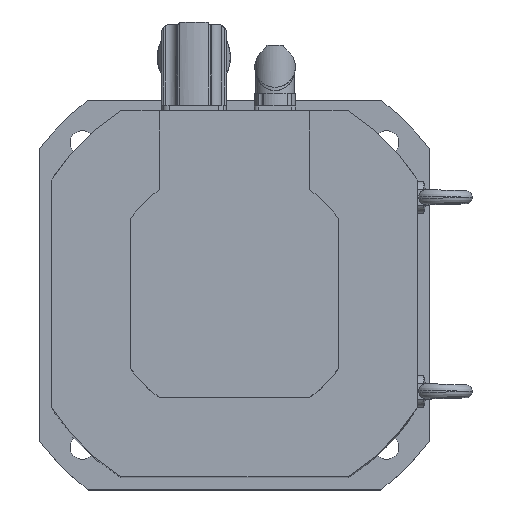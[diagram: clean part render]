
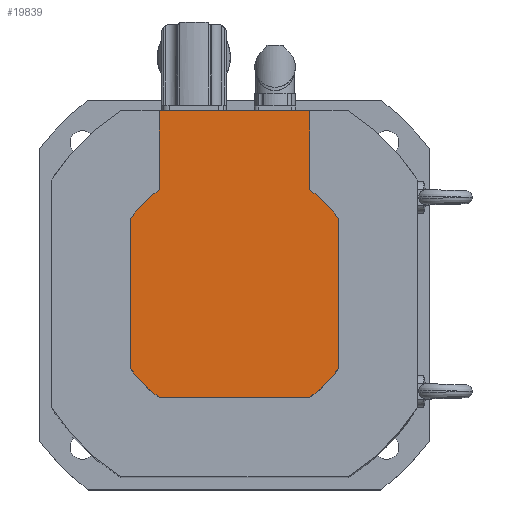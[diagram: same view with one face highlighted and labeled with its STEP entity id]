
A CAD part, top view. The second image highlights one B-rep face of the part: STEP entity #19839.
In plain terms, the highlighted planar face has unit normal (0, 0, 1).
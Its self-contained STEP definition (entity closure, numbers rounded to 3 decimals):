
#19587=CARTESIAN_POINT('',(64.,46.314,56.));
#19588=VERTEX_POINT('',#19587);
#19595=CARTESIAN_POINT('',(64.,-46.314,56.));
#19596=VERTEX_POINT('',#19595);
#19597=CARTESIAN_POINT('',(64.,-46.314,56.));
#19598=DIRECTION('',(0.0,1.0,0.0));
#19599=VECTOR('',#19598,92.628);
#19600=LINE('',#19597,#19599);
#19601=EDGE_CURVE('',#19596,#19588,#19600,.T.);
#19626=CARTESIAN_POINT('',(-64.,-46.314,56.));
#19627=VERTEX_POINT('',#19626);
#19634=CARTESIAN_POINT('',(-64.,46.314,56.));
#19635=VERTEX_POINT('',#19634);
#19636=CARTESIAN_POINT('',(-64.,46.314,56.));
#19637=DIRECTION('',(0.0,-1.0,0.0));
#19638=VECTOR('',#19637,92.628);
#19639=LINE('',#19636,#19638);
#19640=EDGE_CURVE('',#19635,#19627,#19639,.T.);
#19657=CARTESIAN_POINT('',(46.314,-64.,56.));
#19658=VERTEX_POINT('',#19657);
#19665=CARTESIAN_POINT('',(-46.314,-64.,56.));
#19666=VERTEX_POINT('',#19665);
#19667=CARTESIAN_POINT('',(-46.314,-64.,56.));
#19668=DIRECTION('',(1.0,0.0,0.0));
#19669=VECTOR('',#19668,92.628);
#19670=LINE('',#19667,#19669);
#19671=EDGE_CURVE('',#19666,#19658,#19670,.T.);
#19689=CARTESIAN_POINT('',(0.0,0.0,56.));
#19690=DIRECTION('',(0.0,0.0,-1.0));
#19691=DIRECTION('',(-1.0,0.0,0.0));
#19692=AXIS2_PLACEMENT_3D('',#19689,#19690,#19691);
#19693=CIRCLE('',#19692,79.0);
#19694=EDGE_CURVE('',#19596,#19658,#19693,.T.);
#19708=CARTESIAN_POINT('',(46.314,64.0,56.));
#19709=VERTEX_POINT('',#19708);
#19716=CARTESIAN_POINT('',(0.0,0.0,56.));
#19717=DIRECTION('',(0.0,0.0,-1.0));
#19718=DIRECTION('',(-1.0,0.0,0.0));
#19719=AXIS2_PLACEMENT_3D('',#19716,#19717,#19718);
#19720=CIRCLE('',#19719,79.0);
#19721=EDGE_CURVE('',#19709,#19588,#19720,.T.);
#19732=CARTESIAN_POINT('',(-46.314,64.0,56.));
#19733=VERTEX_POINT('',#19732);
#19734=CARTESIAN_POINT('',(0.0,0.0,56.));
#19735=DIRECTION('',(0.0,0.0,-1.0));
#19736=DIRECTION('',(-1.0,0.0,0.0));
#19737=AXIS2_PLACEMENT_3D('',#19734,#19735,#19736);
#19738=CIRCLE('',#19737,79.0);
#19739=EDGE_CURVE('',#19635,#19733,#19738,.T.);
#19759=CARTESIAN_POINT('',(0.0,0.0,56.));
#19760=DIRECTION('',(0.0,0.0,-1.0));
#19761=DIRECTION('',(-1.0,0.0,0.0));
#19762=AXIS2_PLACEMENT_3D('',#19759,#19760,#19761);
#19763=CIRCLE('',#19762,79.0);
#19764=EDGE_CURVE('',#19666,#19627,#19763,.T.);
#19776=CARTESIAN_POINT('',(-46.314,112.5,56.));
#19777=VERTEX_POINT('',#19776);
#19778=CARTESIAN_POINT('',(-46.314,64.0,56.));
#19779=DIRECTION('',(0.0,1.0,0.0));
#19780=VECTOR('',#19779,48.5);
#19781=LINE('',#19778,#19780);
#19782=EDGE_CURVE('',#19733,#19777,#19781,.T.);
#19798=CARTESIAN_POINT('',(46.314,112.5,56.));
#19799=VERTEX_POINT('',#19798);
#19806=CARTESIAN_POINT('',(46.314,64.0,56.));
#19807=DIRECTION('',(0.0,1.0,0.0));
#19808=VECTOR('',#19807,48.5);
#19809=LINE('',#19806,#19808);
#19810=EDGE_CURVE('',#19709,#19799,#19809,.T.);
#19817=CARTESIAN_POINT('',(64.,-64.,56.));
#19818=DIRECTION('',(0.0,0.0,-1.0));
#19819=DIRECTION('',(-1.0,0.0,0.0));
#19820=AXIS2_PLACEMENT_3D('',#19817,#19818,#19819);
#19821=PLANE('',#19820);
#19822=ORIENTED_EDGE('',*,*,#19601,.T.);
#19823=ORIENTED_EDGE('',*,*,#19721,.F.);
#19824=ORIENTED_EDGE('',*,*,#19810,.T.);
#19825=CARTESIAN_POINT('',(-46.314,112.5,56.));
#19826=DIRECTION('',(1.0,0.0,0.0));
#19827=VECTOR('',#19826,92.628);
#19828=LINE('',#19825,#19827);
#19829=EDGE_CURVE('',#19777,#19799,#19828,.T.);
#19830=ORIENTED_EDGE('',*,*,#19829,.F.);
#19831=ORIENTED_EDGE('',*,*,#19782,.F.);
#19832=ORIENTED_EDGE('',*,*,#19739,.F.);
#19833=ORIENTED_EDGE('',*,*,#19640,.T.);
#19834=ORIENTED_EDGE('',*,*,#19764,.F.);
#19835=ORIENTED_EDGE('',*,*,#19671,.T.);
#19836=ORIENTED_EDGE('',*,*,#19694,.F.);
#19837=EDGE_LOOP('',(#19822,#19823,#19824,#19830,#19831,#19832,#19833,#19834,#19835,#19836));
#19838=FACE_OUTER_BOUND('',#19837,.T.);
#19839=ADVANCED_FACE('',(#19838),#19821,.F.);
